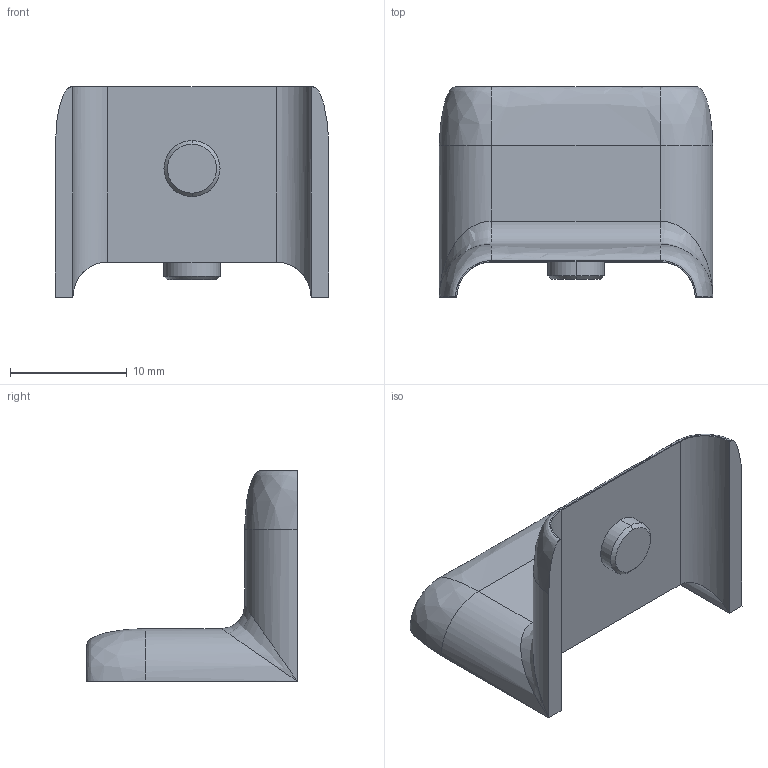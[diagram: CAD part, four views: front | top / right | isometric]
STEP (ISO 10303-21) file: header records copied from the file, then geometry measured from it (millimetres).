
FILE_DESCRIPTION (( 'STEP AP203' ), '1' );
FILE_NAME ('Êðûøêà-ñîåäèíèòåëü ïîä 90 ãðàä V2.STEP', '2025-09-10T18:13:37', ( '' ), ( '' ), 'SwSTEP 2.0', 'SolidWorks 2024', '' );
FILE_SCHEMA (( 'CONFIG_CONTROL_DESIGN' ));
Length unit declared in the file: millimetre
Products named in the file (1): Крышка-соединитель под 90 град V2
Bounding box: 23.4 x 18 x 18 mm (x, y, z)
Volume: 1153.5 mm3; surface area: 1695.1 mm2
Topology: 1 solids, 1 shells, 37 faces, 81 edges, 46 vertices
Faces by surface type: cylinder 13, plane 12, bspline 8, cone 4
Entity records: 1445 total; most frequent: CARTESIAN_POINT 654, ORIENTED_EDGE 158, DIRECTION 131, EDGE_CURVE 79, AXIS2_PLACEMENT_3D 48, VERTEX_POINT 46, EDGE_LOOP 39, ADVANCED_FACE 37
